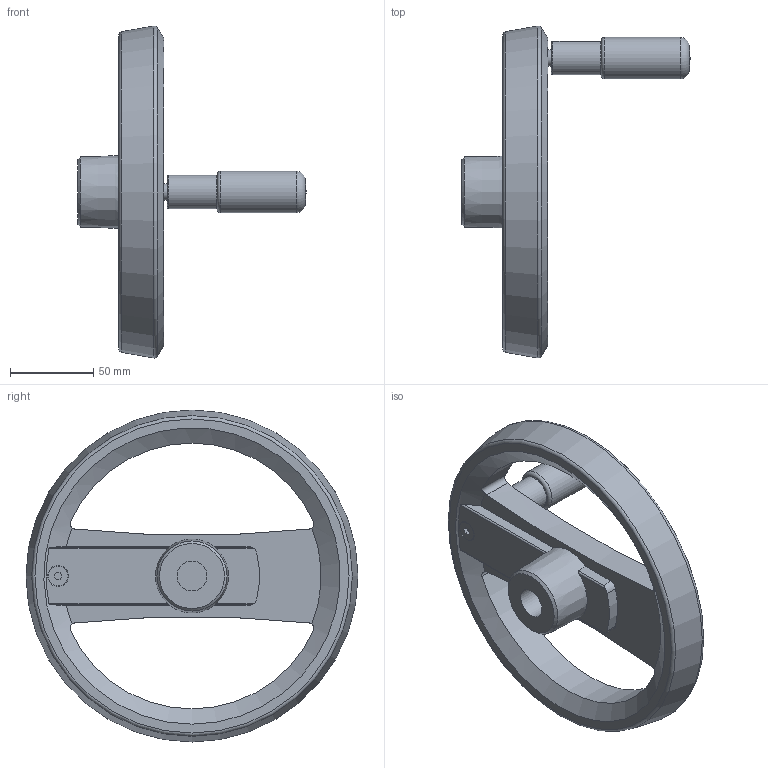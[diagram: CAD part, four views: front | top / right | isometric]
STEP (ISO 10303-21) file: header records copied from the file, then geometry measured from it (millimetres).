
FILE_DESCRIPTION( ( 'STEP AP203' ), '1' );
FILE_NAME( 'C:/Temp/Ganter_Step_05_03_2020/data/1_3/gn_924_3/gn_924_3_b/Handwheel with retractable handle GN 924.3-200-B18-R-SR (activated).stp', '2020-03-05T10:40:59', ( 'License CC BY-ND 4.0' ), ( 'CADENAS' ), ' ', 'PARTsolutions', ' ' );
FILE_SCHEMA( ( 'CONFIG_CONTROL_DESIGN' ) );
Length unit declared in the file: millimetre
Products named in the file (3): Handwheel with retractable handle GN 924.3-200-B18-R-SR (activated); _Umleggriff-Handrad GN 924.3-200-B18-R-SR-1; _Umleggriff-Handrad GN 924.3-200-B18-R-SR-2
Assembly tree (2 placements, depth 2):
  Handwheel with retractable handle GN 924.3-200-B18-R-SR (activated)
    _Umleggriff-Handrad GN 924.3-200-B18-R-SR-1
    _Umleggriff-Handrad GN 924.3-200-B18-R-SR-2
Bounding box: 137.2 x 199.58 x 199.58 mm (x, y, z)
Volume: 417171.2 mm3; surface area: 85334.6 mm2
Topology: 2 solids, 2 shells, 101 faces, 260 edges, 166 vertices
Faces by surface type: plane 43, cylinder 39, cone 10, torus 7, sphere 2
Full cylindrical faces by diameter (mm): 3.96 x2, 4 x2, 5 x1, 10 x1, 12 x1, 18 x1, 20 x1, 25 x2, 26.6 x1
Entity records: 3329 total; most frequent: CARTESIAN_POINT 909, DIRECTION 488, ORIENTED_EDGE 442, EDGE_CURVE 221, AXIS2_PLACEMENT_3D 200, VERTEX_POINT 160, EDGE_LOOP 142, FACE_OUTER_BOUND 120
